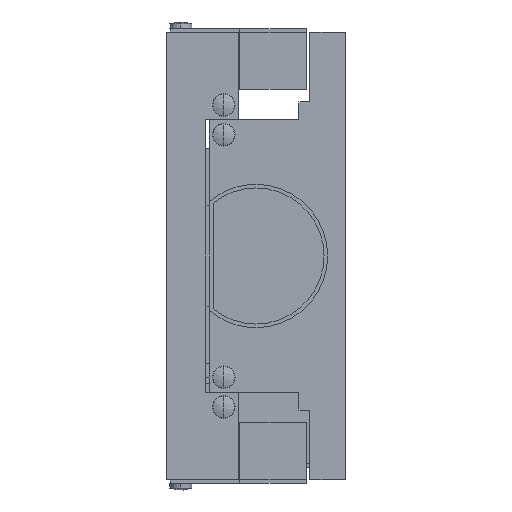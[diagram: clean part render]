
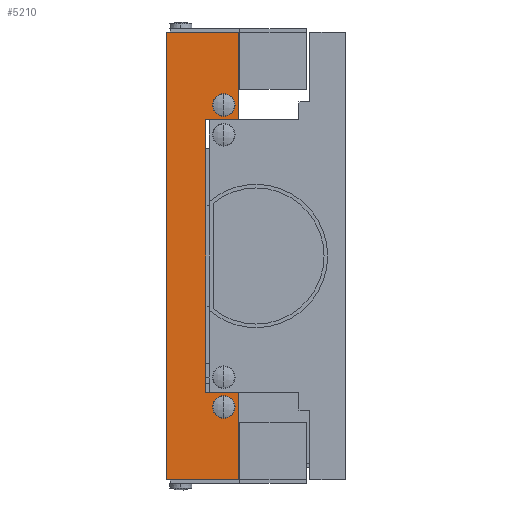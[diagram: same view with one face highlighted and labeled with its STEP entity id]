
A CAD part, left-side view. The second image highlights one B-rep face of the part: STEP entity #5210.
In plain terms, the highlighted planar face has unit normal (-1, 0, 0) as drawn and (1, 0, 0) by its records, which use the part's own axes.
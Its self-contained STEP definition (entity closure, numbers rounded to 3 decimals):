
#178 = CARTESIAN_POINT ( 'NONE',  ( 62.5, -42.15, 34. ) ) ;
#179 = DIRECTION ( 'NONE',  ( 1., 0., 0. ) ) ;
#180 = DIRECTION ( 'NONE',  ( 0., -1., 0. ) ) ;
#189 = CARTESIAN_POINT ( 'NONE',  ( 62.5, 42.15, 34. ) ) ;
#190 = DIRECTION ( 'NONE',  ( 1., 0., 0. ) ) ;
#191 = DIRECTION ( 'NONE',  ( 0., 1., 0. ) ) ;
#1263 = AXIS2_PLACEMENT_3D ( 'NONE', #7248, #7249, #7250 ) ;
#1268 = CIRCLE ( 'NONE', #1269, 3.15 ) ;
#1269 = AXIS2_PLACEMENT_3D ( 'NONE', #7252, #7253, #7254 ) ;
#1270 = CIRCLE ( 'NONE', #1263, 3.15 ) ;
#1418 = EDGE_LOOP ( 'NONE', ( #5529, #5530 ) ) ;
#1818 = VERTEX_POINT ( 'NONE', #6762 ) ;
#1836 = VERTEX_POINT ( 'NONE', #6780 ) ;
#1972 = EDGE_CURVE ( 'NONE', #2595, #2616, #1270, .T. ) ;
#1973 = EDGE_CURVE ( 'NONE', #1818, #1836, #1268, .T. ) ;
#2021 = EDGE_CURVE ( 'NONE', #4834, #4835, #7371, .T. ) ;
#2026 = EDGE_CURVE ( 'NONE', #4835, #4827, #7409, .T. ) ;
#2054 = EDGE_CURVE ( 'NONE', #4825, #4832, #7492, .T. ) ;
#2058 = EDGE_CURVE ( 'NONE', #4817, #4825, #7506, .T. ) ;
#2059 = EDGE_CURVE ( 'NONE', #4832, #4834, #7509, .T. ) ;
#2060 = EDGE_CURVE ( 'NONE', #4827, #4823, #7512, .T. ) ;
#2061 = EDGE_CURVE ( 'NONE', #4823, #4821, #7515, .T. ) ;
#2062 = EDGE_CURVE ( 'NONE', #4821, #4817, #7518, .T. ) ;
#2595 = VERTEX_POINT ( 'NONE', #11060 ) ;
#2616 = VERTEX_POINT ( 'NONE', #11081 ) ;
#4631 = EDGE_LOOP ( 'NONE', ( #5521, #5522, #5523, #5524, #5525, #5526, #5527, #5528 ) ) ;
#4634 = EDGE_LOOP ( 'NONE', ( #5519, #5520 ) ) ;
#4817 = VERTEX_POINT ( 'NONE', #15053 ) ;
#4821 = VERTEX_POINT ( 'NONE', #15056 ) ;
#4823 = VERTEX_POINT ( 'NONE', #15058 ) ;
#4825 = VERTEX_POINT ( 'NONE', #15059 ) ;
#4827 = VERTEX_POINT ( 'NONE', #15061 ) ;
#4832 = VERTEX_POINT ( 'NONE', #15066 ) ;
#4834 = VERTEX_POINT ( 'NONE', #15068 ) ;
#4835 = VERTEX_POINT ( 'NONE', #15069 ) ;
#5210 = ADVANCED_FACE ( 'NONE', ( #15352, #15348, #15354 ), #15355, .T. ) ;
#5371 = EDGE_CURVE ( 'NONE', #1836, #1818, #13281, .T. ) ;
#5375 = EDGE_CURVE ( 'NONE', #2616, #2595, #13285, .T. ) ;
#5519 = ORIENTED_EDGE ( 'NONE', *, *, #1973, .F. ) ;
#5520 = ORIENTED_EDGE ( 'NONE', *, *, #5371, .F. ) ;
#5521 = ORIENTED_EDGE ( 'NONE', *, *, #2058, .T. ) ;
#5522 = ORIENTED_EDGE ( 'NONE', *, *, #2054, .T. ) ;
#5523 = ORIENTED_EDGE ( 'NONE', *, *, #2059, .T. ) ;
#5524 = ORIENTED_EDGE ( 'NONE', *, *, #2021, .T. ) ;
#5525 = ORIENTED_EDGE ( 'NONE', *, *, #2026, .T. ) ;
#5526 = ORIENTED_EDGE ( 'NONE', *, *, #2060, .T. ) ;
#5527 = ORIENTED_EDGE ( 'NONE', *, *, #2061, .T. ) ;
#5528 = ORIENTED_EDGE ( 'NONE', *, *, #2062, .T. ) ;
#5529 = ORIENTED_EDGE ( 'NONE', *, *, #1972, .F. ) ;
#5530 = ORIENTED_EDGE ( 'NONE', *, *, #5375, .F. ) ;
#6762 = CARTESIAN_POINT ( 'NONE',  ( 62.5, -39., 34. ) ) ;
#6780 = CARTESIAN_POINT ( 'NONE',  ( 62.5, -45.3, 34. ) ) ;
#7248 = CARTESIAN_POINT ( 'NONE',  ( 62.5, 42.15, 34. ) ) ;
#7249 = DIRECTION ( 'NONE',  ( 1., 0., 0. ) ) ;
#7250 = DIRECTION ( 'NONE',  ( 0., 1., 0. ) ) ;
#7252 = CARTESIAN_POINT ( 'NONE',  ( 62.5, -42.15, 34. ) ) ;
#7253 = DIRECTION ( 'NONE',  ( 1., 0., 0. ) ) ;
#7254 = DIRECTION ( 'NONE',  ( 0., -1., 0. ) ) ;
#7371 = LINE ( 'NONE', #7396, #8500 ) ;
#7394 = CARTESIAN_POINT ( 'NONE',  ( 62.5, -38., 38. ) ) ;
#7396 = CARTESIAN_POINT ( 'NONE',  ( 62.5, 38., 38. ) ) ;
#7397 = DIRECTION ( 'NONE',  ( 0., 0., -1. ) ) ;
#7409 = LINE ( 'NONE', #7410, #8506 ) ;
#7410 = CARTESIAN_POINT ( 'NONE',  ( 62.5, 62.5, 30. ) ) ;
#7411 = DIRECTION ( 'NONE',  ( 0., 1., 0. ) ) ;
#7492 = LINE ( 'NONE', #7394, #8558 ) ;
#7496 = DIRECTION ( 'NONE',  ( 0., 0., 1. ) ) ;
#7506 = LINE ( 'NONE', #7507, #8565 ) ;
#7507 = CARTESIAN_POINT ( 'NONE',  ( 62.5, -62.5, 30. ) ) ;
#7508 = DIRECTION ( 'NONE',  ( 0., 1., 0. ) ) ;
#7509 = LINE ( 'NONE', #7510, #8566 ) ;
#7510 = CARTESIAN_POINT ( 'NONE',  ( 62.5, 39., 39. ) ) ;
#7511 = DIRECTION ( 'NONE',  ( 0., 1., 0. ) ) ;
#7512 = LINE ( 'NONE', #7513, #8567 ) ;
#7513 = CARTESIAN_POINT ( 'NONE',  ( 62.5, 62.5, 50. ) ) ;
#7514 = DIRECTION ( 'NONE',  ( 0., 0., 1. ) ) ;
#7515 = LINE ( 'NONE', #7516, #8568 ) ;
#7516 = CARTESIAN_POINT ( 'NONE',  ( 62.5, -62.5, 50. ) ) ;
#7517 = DIRECTION ( 'NONE',  ( 0., -1., 0. ) ) ;
#7518 = LINE ( 'NONE', #7519, #8569 ) ;
#7519 = CARTESIAN_POINT ( 'NONE',  ( 62.5, -62.5, 50. ) ) ;
#7520 = DIRECTION ( 'NONE',  ( 0., 0., -1. ) ) ;
#8500 = VECTOR ( 'NONE', #7397, 1000. ) ;
#8506 = VECTOR ( 'NONE', #7411, 1000. ) ;
#8558 = VECTOR ( 'NONE', #7496, 1000. ) ;
#8565 = VECTOR ( 'NONE', #7508, 1000. ) ;
#8566 = VECTOR ( 'NONE', #7511, 1000. ) ;
#8567 = VECTOR ( 'NONE', #7514, 1000. ) ;
#8568 = VECTOR ( 'NONE', #7517, 1000. ) ;
#8569 = VECTOR ( 'NONE', #7520, 1000. ) ;
#11060 = CARTESIAN_POINT ( 'NONE',  ( 62.5, 39., 34. ) ) ;
#11081 = CARTESIAN_POINT ( 'NONE',  ( 62.5, 45.3, 34. ) ) ;
#13053 = AXIS2_PLACEMENT_3D ( 'NONE', #15351, #15347, #15357 ) ;
#13281 = CIRCLE ( 'NONE', #13283, 3.15 ) ;
#13283 = AXIS2_PLACEMENT_3D ( 'NONE', #178, #179, #180 ) ;
#13285 = CIRCLE ( 'NONE', #13289, 3.15 ) ;
#13289 = AXIS2_PLACEMENT_3D ( 'NONE', #189, #190, #191 ) ;
#15053 = CARTESIAN_POINT ( 'NONE',  ( 62.5, -62.5, 30. ) ) ;
#15056 = CARTESIAN_POINT ( 'NONE',  ( 62.5, -62.5, 50. ) ) ;
#15058 = CARTESIAN_POINT ( 'NONE',  ( 62.5, 62.5, 50. ) ) ;
#15059 = CARTESIAN_POINT ( 'NONE',  ( 62.5, -38., 30. ) ) ;
#15061 = CARTESIAN_POINT ( 'NONE',  ( 62.5, 62.5, 30. ) ) ;
#15066 = CARTESIAN_POINT ( 'NONE',  ( 62.5, -38., 39. ) ) ;
#15068 = CARTESIAN_POINT ( 'NONE',  ( 62.5, 38., 39. ) ) ;
#15069 = CARTESIAN_POINT ( 'NONE',  ( 62.5, 38., 30. ) ) ;
#15347 = DIRECTION ( 'NONE',  ( 1., 0., 0. ) ) ;
#15348 = FACE_OUTER_BOUND ( 'NONE', #4631, .T. ) ;
#15351 = CARTESIAN_POINT ( 'NONE',  ( 62.5, -47., 30. ) ) ;
#15352 = FACE_BOUND ( 'NONE', #4634, .T. ) ;
#15354 = FACE_BOUND ( 'NONE', #1418, .T. ) ;
#15355 = PLANE ( 'NONE',  #13053 ) ;
#15357 = DIRECTION ( 'NONE',  ( 0., -1., 0. ) ) ;
